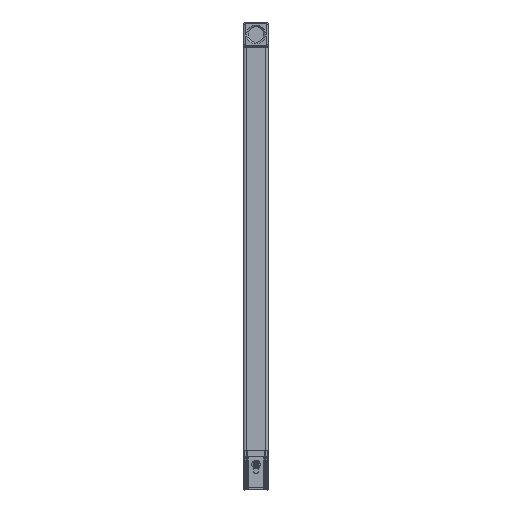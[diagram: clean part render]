
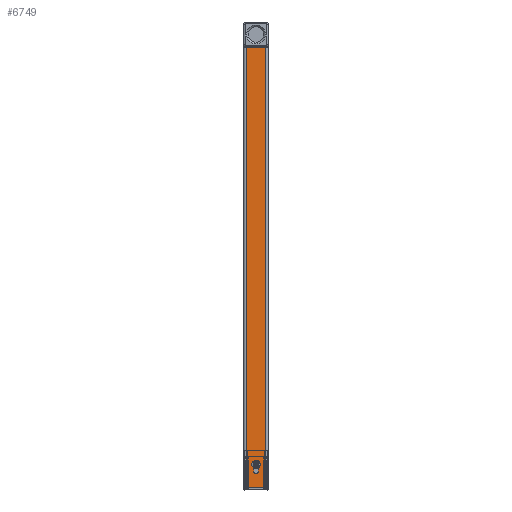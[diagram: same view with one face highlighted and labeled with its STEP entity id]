
A CAD part, top view. The second image highlights one B-rep face of the part: STEP entity #6749.
In plain terms, the highlighted planar face has unit normal (0, 0, 1).
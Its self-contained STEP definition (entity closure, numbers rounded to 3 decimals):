
#569=CARTESIAN_POINT('',(-12.,455.0,1575.0));
#570=VERTEX_POINT('',#569);
#577=CARTESIAN_POINT('',(12.,455.0,1575.0));
#578=VERTEX_POINT('',#577);
#579=CARTESIAN_POINT('',(12.,455.0,1575.0));
#580=DIRECTION('',(-1.0,0.0,0.0));
#581=VECTOR('',#580,24.);
#582=LINE('',#579,#581);
#583=EDGE_CURVE('',#578,#570,#582,.T.);
#1238=CARTESIAN_POINT('',(-3.,-47.,1575.0));
#1239=VERTEX_POINT('',#1238);
#1246=CARTESIAN_POINT('',(-3.0,-55.,1575.0));
#1247=VERTEX_POINT('',#1246);
#1248=CARTESIAN_POINT('',(-3.0,-55.,1575.0));
#1249=DIRECTION('',(0.0,1.0,0.0));
#1250=VECTOR('',#1249,8.0);
#1251=LINE('',#1248,#1250);
#1252=EDGE_CURVE('',#1247,#1239,#1251,.T.);
#1278=CARTESIAN_POINT('',(3.0,-55.,1575.0));
#1279=VERTEX_POINT('',#1278);
#1280=CARTESIAN_POINT('',(0.0,-55.,1575.0));
#1281=DIRECTION('',(0.0,0.0,-1.0));
#1282=DIRECTION('',(-1.0,0.0,0.0));
#1283=AXIS2_PLACEMENT_3D('',#1280,#1281,#1282);
#1284=CIRCLE('',#1283,3.0);
#1285=EDGE_CURVE('',#1279,#1247,#1284,.T.);
#1310=CARTESIAN_POINT('',(3.0,-47.,1575.0));
#1311=VERTEX_POINT('',#1310);
#1312=CARTESIAN_POINT('',(3.0,-47.,1575.0));
#1313=DIRECTION('',(0.0,-1.0,0.0));
#1314=VECTOR('',#1313,8.);
#1315=LINE('',#1312,#1314);
#1316=EDGE_CURVE('',#1311,#1279,#1315,.T.);
#1340=CARTESIAN_POINT('',(0.0,-47.,1575.0));
#1341=DIRECTION('',(0.0,0.0,-1.0));
#1342=DIRECTION('',(1.0,0.0,0.0));
#1343=AXIS2_PLACEMENT_3D('',#1340,#1341,#1342);
#1344=CIRCLE('',#1343,3.);
#1345=EDGE_CURVE('',#1239,#1311,#1344,.T.);
#1800=CARTESIAN_POINT('',(12.,-75.0,1575.0));
#1801=VERTEX_POINT('',#1800);
#1809=CARTESIAN_POINT('',(-12.,-75.0,1575.0));
#1810=VERTEX_POINT('',#1809);
#1811=CARTESIAN_POINT('',(-12.,-75.0,1575.0));
#1812=DIRECTION('',(1.0,0.0,0.0));
#1813=VECTOR('',#1812,24.);
#1814=LINE('',#1811,#1813);
#1815=EDGE_CURVE('',#1810,#1801,#1814,.T.);
#6711=CARTESIAN_POINT('',(12.,-75.0,1575.0));
#6712=DIRECTION('',(0.0,1.0,0.0));
#6713=VECTOR('',#6712,530.0);
#6714=LINE('',#6711,#6713);
#6715=EDGE_CURVE('',#1801,#578,#6714,.T.);
#6727=CARTESIAN_POINT('',(12.,-75.0,1575.0));
#6728=DIRECTION('',(0.0,0.0,1.0));
#6729=DIRECTION('',(1.0,0.0,0.0));
#6730=AXIS2_PLACEMENT_3D('',#6727,#6728,#6729);
#6731=PLANE('',#6730);
#6732=ORIENTED_EDGE('',*,*,#583,.T.);
#6733=CARTESIAN_POINT('',(-12.,-75.0,1575.0));
#6734=DIRECTION('',(0.0,1.0,0.0));
#6735=VECTOR('',#6734,530.0);
#6736=LINE('',#6733,#6735);
#6737=EDGE_CURVE('',#1810,#570,#6736,.T.);
#6738=ORIENTED_EDGE('',*,*,#6737,.F.);
#6739=ORIENTED_EDGE('',*,*,#1815,.T.);
#6740=ORIENTED_EDGE('',*,*,#6715,.T.);
#6741=EDGE_LOOP('',(#6732,#6738,#6739,#6740));
#6742=FACE_OUTER_BOUND('',#6741,.T.);
#6743=ORIENTED_EDGE('',*,*,#1316,.T.);
#6744=ORIENTED_EDGE('',*,*,#1285,.T.);
#6745=ORIENTED_EDGE('',*,*,#1252,.T.);
#6746=ORIENTED_EDGE('',*,*,#1345,.T.);
#6747=EDGE_LOOP('',(#6743,#6744,#6745,#6746));
#6748=FACE_BOUND('',#6747,.T.);
#6749=ADVANCED_FACE('',(#6742,#6748),#6731,.T.);
